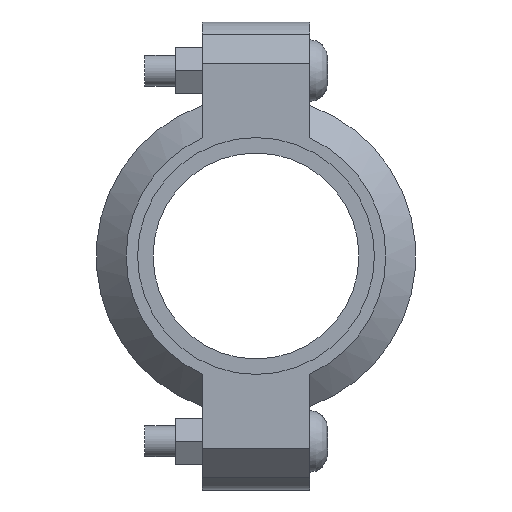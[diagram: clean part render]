
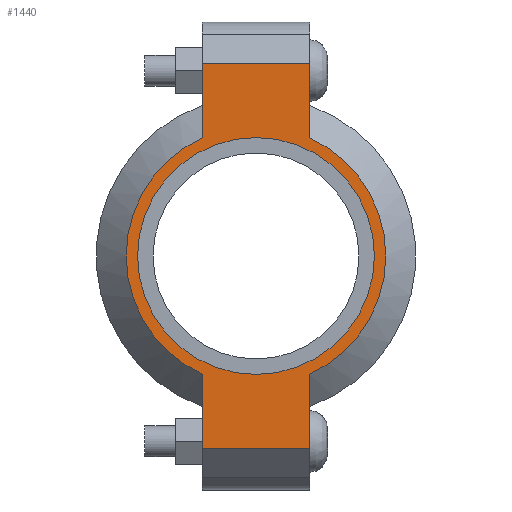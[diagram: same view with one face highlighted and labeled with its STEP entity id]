
A CAD part, left-side view. The second image highlights one B-rep face of the part: STEP entity #1440.
In plain terms, the highlighted planar face has unit normal (-1, 0, 0) as drawn and (0, 0, 1) by its records, which use the part's own axes.
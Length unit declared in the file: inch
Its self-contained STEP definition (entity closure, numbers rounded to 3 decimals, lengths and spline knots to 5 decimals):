
#120=LINE('',#2497,#211);
#128=LINE('',#2533,#219);
#135=LINE('',#2554,#226);
#144=LINE('',#2586,#235);
#145=LINE('',#2590,#236);
#146=LINE('',#2592,#237);
#211=VECTOR('',#2027,0.3937);
#219=VECTOR('',#2043,0.3937);
#226=VECTOR('',#2062,0.3937);
#235=VECTOR('',#2087,0.3937);
#236=VECTOR('',#2092,0.3937);
#237=VECTOR('',#2093,0.3937);
#289=FACE_BOUND('',#449,.T.);
#353=FACE_OUTER_BOUND('',#448,.T.);
#448=EDGE_LOOP('',(#1175,#1176,#1177,#1178,#1179,#1180,#1181,#1182));
#449=EDGE_LOOP('',(#1183));
#546=CIRCLE('',#1701,1.575);
#547=CIRCLE('',#1702,1.575);
#548=CIRCLE('',#1703,1.4375);
#651=VERTEX_POINT('',#2494);
#652=VERTEX_POINT('',#2496);
#663=VERTEX_POINT('',#2528);
#664=VERTEX_POINT('',#2532);
#671=VERTEX_POINT('',#2551);
#672=VERTEX_POINT('',#2553);
#682=VERTEX_POINT('',#2589);
#683=VERTEX_POINT('',#2591);
#684=VERTEX_POINT('',#2594);
#815=EDGE_CURVE('',#652,#651,#120,.T.);
#829=EDGE_CURVE('',#664,#663,#128,.T.);
#839=EDGE_CURVE('',#672,#671,#135,.T.);
#854=EDGE_CURVE('',#664,#651,#144,.T.);
#855=EDGE_CURVE('',#663,#672,#546,.T.);
#856=EDGE_CURVE('',#682,#671,#145,.T.);
#857=EDGE_CURVE('',#682,#683,#146,.T.);
#858=EDGE_CURVE('',#683,#652,#547,.T.);
#859=EDGE_CURVE('',#684,#684,#548,.T.);
#1175=ORIENTED_EDGE('',*,*,#854,.F.);
#1176=ORIENTED_EDGE('',*,*,#829,.T.);
#1177=ORIENTED_EDGE('',*,*,#855,.T.);
#1178=ORIENTED_EDGE('',*,*,#839,.T.);
#1179=ORIENTED_EDGE('',*,*,#856,.F.);
#1180=ORIENTED_EDGE('',*,*,#857,.T.);
#1181=ORIENTED_EDGE('',*,*,#858,.T.);
#1182=ORIENTED_EDGE('',*,*,#815,.T.);
#1183=ORIENTED_EDGE('',*,*,#859,.T.);
#1294=PLANE('',#1700);
#1440=ADVANCED_FACE('',(#353,#289),#1294,.T.);
#1700=AXIS2_PLACEMENT_3D('',#2587,#2088,#2089);
#1701=AXIS2_PLACEMENT_3D('',#2588,#2090,#2091);
#1702=AXIS2_PLACEMENT_3D('',#2593,#2094,#2095);
#1703=AXIS2_PLACEMENT_3D('',#2595,#2096,#2097);
#2027=DIRECTION('',(1.,0.,0.));
#2043=DIRECTION('',(-1.,0.,0.));
#2062=DIRECTION('',(-1.,0.,0.));
#2087=DIRECTION('',(0.,-1.,0.));
#2088=DIRECTION('center_axis',(0.,0.,1.));
#2089=DIRECTION('ref_axis',(-1.,0.,0.));
#2090=DIRECTION('center_axis',(0.,0.,1.));
#2091=DIRECTION('ref_axis',(1.,0.,0.));
#2092=DIRECTION('',(0.,1.,0.));
#2093=DIRECTION('',(1.,0.,0.));
#2094=DIRECTION('center_axis',(0.,0.,1.));
#2095=DIRECTION('ref_axis',(1.,0.,0.));
#2096=DIRECTION('center_axis',(0.,0.,-1.));
#2097=DIRECTION('ref_axis',(1.,0.,0.));
#2494=CARTESIAN_POINT('',(2.34,-0.65,0.94));
#2496=CARTESIAN_POINT('',(1.43462,-0.65,0.94));
#2497=CARTESIAN_POINT('',(2.84,-0.65,0.94));
#2528=CARTESIAN_POINT('',(1.43462,0.65,0.94));
#2532=CARTESIAN_POINT('',(2.34,0.65,0.94));
#2533=CARTESIAN_POINT('',(-2.84,0.65,0.94));
#2551=CARTESIAN_POINT('',(-2.34,0.65,0.94));
#2553=CARTESIAN_POINT('',(-1.43462,0.65,0.94));
#2554=CARTESIAN_POINT('',(-2.84,0.65,0.94));
#2586=CARTESIAN_POINT('',(2.34,-0.325,0.94));
#2587=CARTESIAN_POINT('Origin',(0.,0.,
0.94));
#2588=CARTESIAN_POINT('Origin',(0.,0.,0.94));
#2589=CARTESIAN_POINT('',(-2.34,-0.65,0.94));
#2590=CARTESIAN_POINT('',(-2.34,0.325,0.94));
#2591=CARTESIAN_POINT('',(-1.43462,-0.65,0.94));
#2592=CARTESIAN_POINT('',(2.84,-0.65,0.94));
#2593=CARTESIAN_POINT('Origin',(0.,0.,0.94));
#2594=CARTESIAN_POINT('',(-1.4375,0.,0.94));
#2595=CARTESIAN_POINT('Origin',(0.,0.,0.94));
